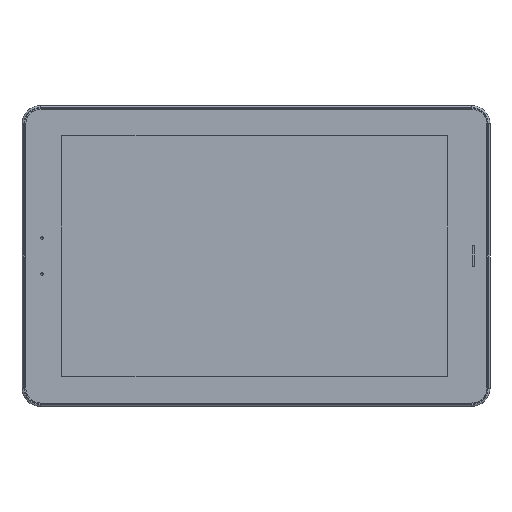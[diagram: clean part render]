
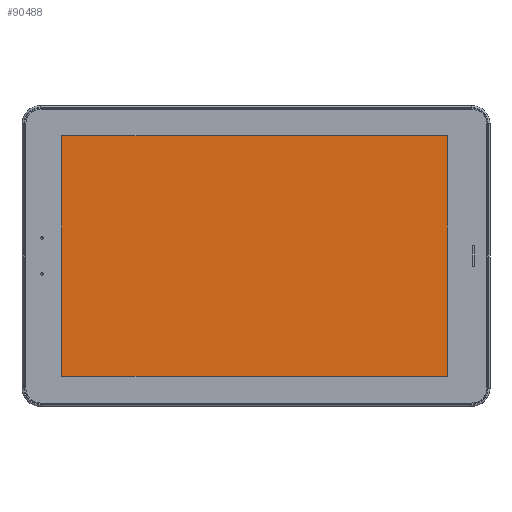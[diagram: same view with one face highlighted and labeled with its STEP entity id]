
A CAD part, front view. The second image highlights one B-rep face of the part: STEP entity #90488.
In plain terms, the highlighted planar face has unit normal (0, -1, 0).
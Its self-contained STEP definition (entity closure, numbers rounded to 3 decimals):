
#720 = FACE_OUTER_BOUND ( 'NONE', #82896, .T. ) ;
#1805 = VECTOR ( 'NONE', #123472, 1000. ) ;
#7671 = CARTESIAN_POINT ( 'NONE',  ( -107.951, 1.02, -67.001 ) ) ;
#18142 = EDGE_CURVE ( 'NONE', #79107, #91027, #69039, .T. ) ;
#21445 = EDGE_CURVE ( 'NONE', #114250, #24236, #91010, .T. ) ;
#22655 = CARTESIAN_POINT ( 'NONE',  ( 106.449, 1.02, -67.001 ) ) ;
#24236 = VERTEX_POINT ( 'NONE', #137748 ) ;
#29539 = ORIENTED_EDGE ( 'NONE', *, *, #119887, .T. ) ;
#38922 = LINE ( 'NONE', #83221, #135278 ) ;
#44518 = CARTESIAN_POINT ( 'NONE',  ( 106.449, 1.02, -67.001 ) ) ;
#57593 = DIRECTION ( 'NONE',  ( 0., 0., 1. ) ) ;
#61754 = AXIS2_PLACEMENT_3D ( 'NONE', #123642, #109095, #98155 ) ;
#66111 = VECTOR ( 'NONE', #101788, 1000. ) ;
#66330 = CARTESIAN_POINT ( 'NONE',  ( -107.951, 1.02, -67.001 ) ) ;
#69039 = LINE ( 'NONE', #66330, #66111 ) ;
#72290 = EDGE_CURVE ( 'NONE', #24236, #79107, #87052, .T. ) ;
#79107 = VERTEX_POINT ( 'NONE', #125960 ) ;
#79186 = PLANE ( 'NONE',  #61754 ) ;
#82896 = EDGE_LOOP ( 'NONE', ( #89812, #142282, #107493, #29539 ) ) ;
#83221 = CARTESIAN_POINT ( 'NONE',  ( 106.449, 1.02, -67.001 ) ) ;
#84197 = VECTOR ( 'NONE', #57593, 1000. ) ;
#87052 = LINE ( 'NONE', #100882, #1805 ) ;
#89812 = ORIENTED_EDGE ( 'NONE', *, *, #21445, .T. ) ;
#90488 = ADVANCED_FACE ( 'NONE', ( #720 ), #79186, .T. ) ;
#91010 = LINE ( 'NONE', #44518, #84197 ) ;
#91027 = VERTEX_POINT ( 'NONE', #7671 ) ;
#98155 = DIRECTION ( 'NONE',  ( -1., 0., 0. ) ) ;
#100882 = CARTESIAN_POINT ( 'NONE',  ( 106.449, 1.02, 66.899 ) ) ;
#101788 = DIRECTION ( 'NONE',  ( 0., 0., -1. ) ) ;
#107493 = ORIENTED_EDGE ( 'NONE', *, *, #18142, .T. ) ;
#109095 = DIRECTION ( 'NONE',  ( 0., -1., 0. ) ) ;
#114250 = VERTEX_POINT ( 'NONE', #22655 ) ;
#119887 = EDGE_CURVE ( 'NONE', #91027, #114250, #38922, .T. ) ;
#123472 = DIRECTION ( 'NONE',  ( -1., 0., 0. ) ) ;
#123642 = CARTESIAN_POINT ( 'NONE',  ( 0.199, 1.02, -0.051 ) ) ;
#125960 = CARTESIAN_POINT ( 'NONE',  ( -107.951, 1.02, 66.899 ) ) ;
#131975 = DIRECTION ( 'NONE',  ( 1., 0., 0. ) ) ;
#135278 = VECTOR ( 'NONE', #131975, 1000. ) ;
#137748 = CARTESIAN_POINT ( 'NONE',  ( 106.449, 1.02, 66.899 ) ) ;
#142282 = ORIENTED_EDGE ( 'NONE', *, *, #72290, .T. ) ;
